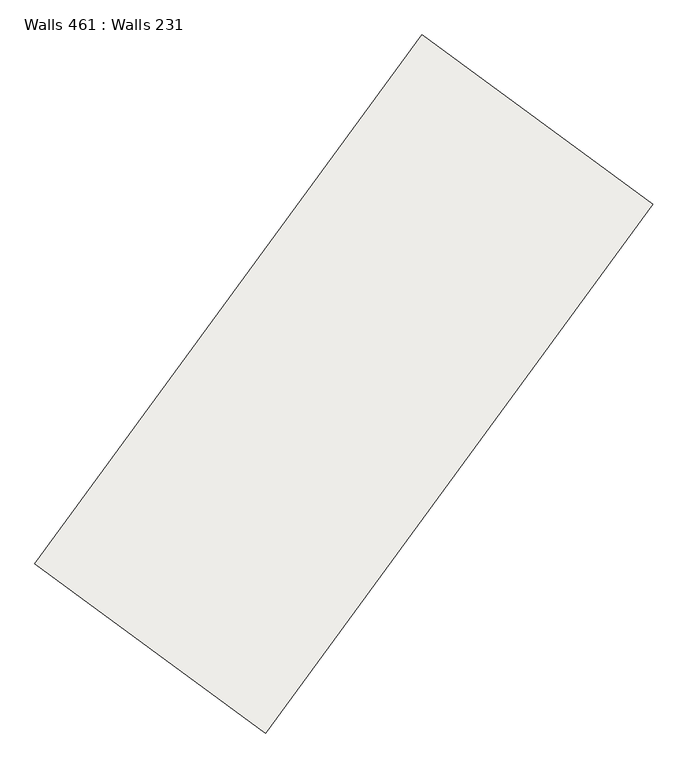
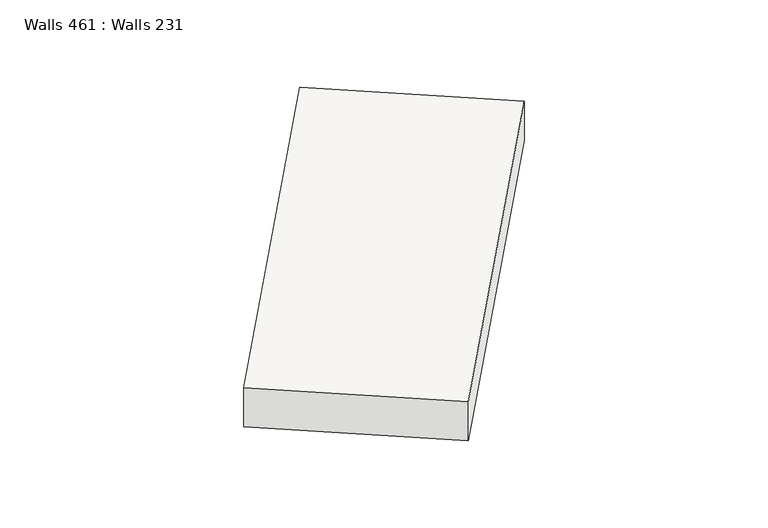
"""IFC4 building model written with IfcOpenShell, lengths in millimetres: slab geometry, Walls 461 : Walls 231."""

from ifc_helpers import new_model, si_unit, frame, origin, place, context, project, spatial, polyline, outline, extrude, source, transform, mapped, element, save


def walls_461_walls_231_ff55b517(model_context):
    return source(origin(), model_context, "Body", "SweptSolid", [
        extrude(outline(polyline([(-400.0, 0.0), (400.0, 0.0), (287.7, -8700.0000008), (-512.3, -8700.0000008), (-400.0, 0.0)])), frame((439754.3314196, 318535.5837575, 646211.4), z_axis=(-0.8067016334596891, 0.5909589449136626, 0.0), x_axis=(0.0, 0.0, 1.0)), (0.0, 0.0, 1.0), 3800.0),
    ])


if __name__ == "__main__":
    model = new_model("IFC4")
    model_context = context("Model", 3, world=origin())
    ifc_project = project(units=[si_unit("LENGTHUNIT", "METRE", prefix="MILLI")], contexts=[model_context])
    site = spatial("IfcSite", under=ifc_project)
    building = spatial("IfcBuilding", under=site)
    placement = place(None, origin())
    walls_461_walls_231_shape = walls_461_walls_231_ff55b517(model_context)
    element("IfcSlab", 1, ObjectType="Walls 461 : Walls 231", at=placement, inside=building, context=model_context, shape_type="MappedRepresentation", body=[
        mapped(walls_461_walls_231_shape, transform((0.0, 0.0, 0.0), x_axis=(1.0, 0.0, 0.0), y_axis=(0.0, 1.0, 0.0), z_axis=(0.0, 0.0, 1.0))),
    ])
    save(model, "model.ifc")
